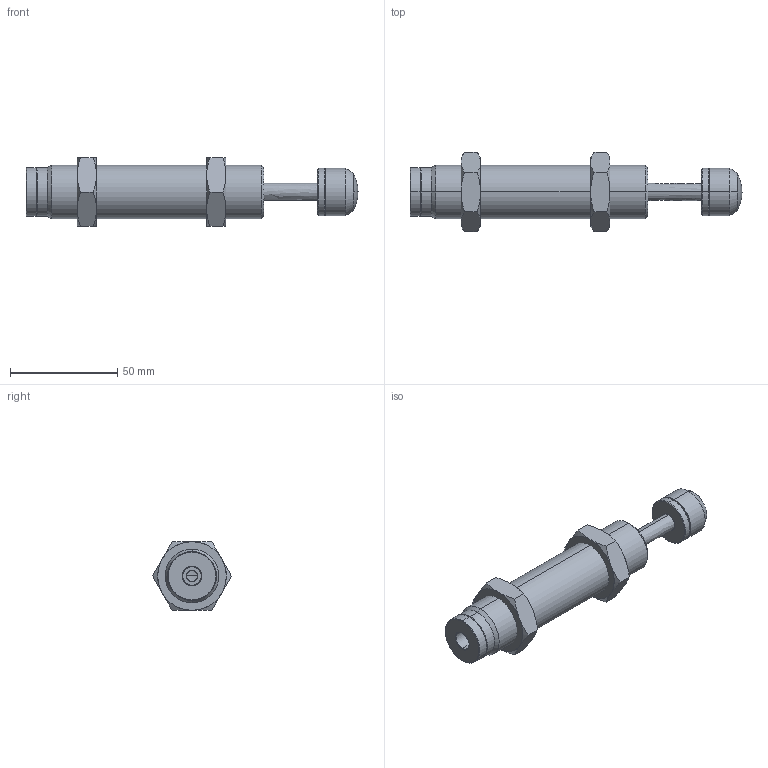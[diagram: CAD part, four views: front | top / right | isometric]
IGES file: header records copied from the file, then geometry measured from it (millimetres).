
Start section: SolidWorks IGES file using analytic representation for surfaces
Global section: file name: D:\IGS跡宒\AC2525-V-SH.IGS,1; native system: 5HSolidWorks 2013; preprocessor: SolidWorks 2013; author: Administrator; date: 160406.152316; units: inch
Bounding box: 154.9 x 36.95 x 32.05 mm (x, y, z)
Surface area: 17479.9 mm2 (no closed solid volume)
Topology: 0 solids, 0 shells, 100 faces, 1540 edges, 1539 vertices
Faces by surface type: revolution 76, bspline 24
